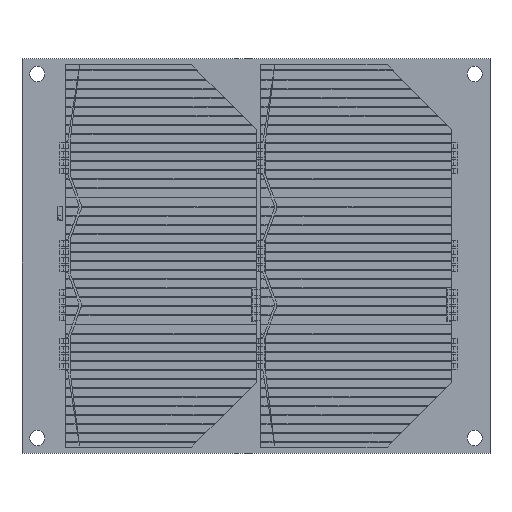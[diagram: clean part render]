
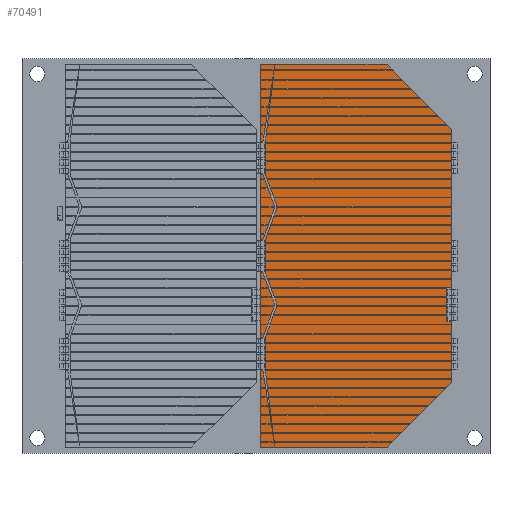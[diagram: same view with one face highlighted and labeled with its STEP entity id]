
A CAD part, top view. The second image highlights one B-rep face of the part: STEP entity #70491.
In plain terms, the highlighted planar face has unit normal (0, 0, 1).
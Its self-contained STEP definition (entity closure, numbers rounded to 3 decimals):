
#70020 = EDGE_CURVE('',#70021,#70023,#70025,.T.);
#70021 = VERTEX_POINT('',#70022);
#70022 = CARTESIAN_POINT('',(-20.,-23.797,0.15));
#70023 = VERTEX_POINT('',#70024);
#70024 = CARTESIAN_POINT('',(-20.,2.703,0.15));
#70025 = SURFACE_CURVE('',#70026,(#70030,#70042),.PCURVE_S1.);
#70026 = LINE('',#70027,#70028);
#70027 = CARTESIAN_POINT('',(-20.,-23.797,0.15));
#70028 = VECTOR('',#70029,1.);
#70029 = DIRECTION('',(0.,1.,0.));
#70030 = PCURVE('',#70031,#70036);
#70031 = PLANE('',#70032);
#70032 = AXIS2_PLACEMENT_3D('',#70033,#70034,#70035);
#70033 = CARTESIAN_POINT('',(-20.,-23.797,0.));
#70034 = DIRECTION('',(-1.,0.,0.));
#70035 = DIRECTION('',(0.,0.,1.));
#70036 = DEFINITIONAL_REPRESENTATION('',(#70037),#70041);
#70037 = LINE('',#70038,#70039);
#70038 = CARTESIAN_POINT('',(0.15,0.));
#70039 = VECTOR('',#70040,1.);
#70040 = DIRECTION('',(0.,1.));
#70041 = ( GEOMETRIC_REPRESENTATION_CONTEXT(2) 
PARAMETRIC_REPRESENTATION_CONTEXT() REPRESENTATION_CONTEXT('2D SPACE',''
  ) );
#70042 = PCURVE('',#70043,#70048);
#70043 = PLANE('',#70044);
#70044 = AXIS2_PLACEMENT_3D('',#70045,#70046,#70047);
#70045 = CARTESIAN_POINT('',(20.,-5.545,0.15));
#70046 = DIRECTION('',(0.,0.,1.));
#70047 = DIRECTION('',(1.,0.,0.));
#70048 = DEFINITIONAL_REPRESENTATION('',(#70049),#70053);
#70049 = LINE('',#70050,#70051);
#70050 = CARTESIAN_POINT('',(-40.,-18.252));
#70051 = VECTOR('',#70052,1.);
#70052 = DIRECTION('',(0.,1.));
#70053 = ( GEOMETRIC_REPRESENTATION_CONTEXT(2) 
PARAMETRIC_REPRESENTATION_CONTEXT() REPRESENTATION_CONTEXT('2D SPACE',''
  ) );
#70071 = PLANE('',#70072);
#70072 = AXIS2_PLACEMENT_3D('',#70073,#70074,#70075);
#70073 = CARTESIAN_POINT('',(-20.,2.703,0.));
#70074 = DIRECTION('',(-0.707,0.707,0.));
#70075 = DIRECTION('',(0.,0.,1.));
#70125 = PLANE('',#70126);
#70126 = AXIS2_PLACEMENT_3D('',#70127,#70128,#70129);
#70127 = CARTESIAN_POINT('',(60.,-23.797,0.));
#70128 = DIRECTION('',(0.,-1.,0.));
#70129 = DIRECTION('',(0.,0.,-1.));
#70140 = EDGE_CURVE('',#70023,#70141,#70143,.T.);
#70141 = VERTEX_POINT('',#70142);
#70142 = CARTESIAN_POINT('',(-6.5,16.203,0.15));
#70143 = SURFACE_CURVE('',#70144,(#70148,#70155),.PCURVE_S1.);
#70144 = LINE('',#70145,#70146);
#70145 = CARTESIAN_POINT('',(-20.,2.703,0.15));
#70146 = VECTOR('',#70147,1.);
#70147 = DIRECTION('',(0.707,0.707,0.));
#70148 = PCURVE('',#70071,#70149);
#70149 = DEFINITIONAL_REPRESENTATION('',(#70150),#70154);
#70150 = LINE('',#70151,#70152);
#70151 = CARTESIAN_POINT('',(0.15,0.));
#70152 = VECTOR('',#70153,1.);
#70153 = DIRECTION('',(0.,1.));
#70154 = ( GEOMETRIC_REPRESENTATION_CONTEXT(2) 
PARAMETRIC_REPRESENTATION_CONTEXT() REPRESENTATION_CONTEXT('2D SPACE',''
  ) );
#70155 = PCURVE('',#70043,#70156);
#70156 = DEFINITIONAL_REPRESENTATION('',(#70157),#70161);
#70157 = LINE('',#70158,#70159);
#70158 = CARTESIAN_POINT('',(-40.,8.248));
#70159 = VECTOR('',#70160,1.);
#70160 = DIRECTION('',(0.707,0.707));
#70161 = ( GEOMETRIC_REPRESENTATION_CONTEXT(2) 
PARAMETRIC_REPRESENTATION_CONTEXT() REPRESENTATION_CONTEXT('2D SPACE',''
  ) );
#70179 = PLANE('',#70180);
#70180 = AXIS2_PLACEMENT_3D('',#70181,#70182,#70183);
#70181 = CARTESIAN_POINT('',(-6.5,16.203,0.));
#70182 = DIRECTION('',(0.,1.,0.));
#70183 = DIRECTION('',(0.,0.,1.));
#70216 = EDGE_CURVE('',#70141,#70217,#70219,.T.);
#70217 = VERTEX_POINT('',#70218);
#70218 = CARTESIAN_POINT('',(46.5,16.203,0.15));
#70219 = SURFACE_CURVE('',#70220,(#70224,#70231),.PCURVE_S1.);
#70220 = LINE('',#70221,#70222);
#70221 = CARTESIAN_POINT('',(-6.5,16.203,0.15));
#70222 = VECTOR('',#70223,1.);
#70223 = DIRECTION('',(1.,0.,0.));
#70224 = PCURVE('',#70179,#70225);
#70225 = DEFINITIONAL_REPRESENTATION('',(#70226),#70230);
#70226 = LINE('',#70227,#70228);
#70227 = CARTESIAN_POINT('',(0.15,0.));
#70228 = VECTOR('',#70229,1.);
#70229 = DIRECTION('',(0.,1.));
#70230 = ( GEOMETRIC_REPRESENTATION_CONTEXT(2) 
PARAMETRIC_REPRESENTATION_CONTEXT() REPRESENTATION_CONTEXT('2D SPACE',''
  ) );
#70231 = PCURVE('',#70043,#70232);
#70232 = DEFINITIONAL_REPRESENTATION('',(#70233),#70237);
#70233 = LINE('',#70234,#70235);
#70234 = CARTESIAN_POINT('',(-26.5,21.748));
#70235 = VECTOR('',#70236,1.);
#70236 = DIRECTION('',(1.,0.));
#70237 = ( GEOMETRIC_REPRESENTATION_CONTEXT(2) 
PARAMETRIC_REPRESENTATION_CONTEXT() REPRESENTATION_CONTEXT('2D SPACE',''
  ) );
#70255 = PLANE('',#70256);
#70256 = AXIS2_PLACEMENT_3D('',#70257,#70258,#70259);
#70257 = CARTESIAN_POINT('',(46.5,16.203,0.));
#70258 = DIRECTION('',(0.707,0.707,0.));
#70259 = DIRECTION('',(0.,0.,-1.));
#70292 = EDGE_CURVE('',#70217,#70293,#70295,.T.);
#70293 = VERTEX_POINT('',#70294);
#70294 = CARTESIAN_POINT('',(60.,2.703,0.15));
#70295 = SURFACE_CURVE('',#70296,(#70300,#70307),.PCURVE_S1.);
#70296 = LINE('',#70297,#70298);
#70297 = CARTESIAN_POINT('',(46.5,16.203,0.15));
#70298 = VECTOR('',#70299,1.);
#70299 = DIRECTION('',(0.707,-0.707,0.));
#70300 = PCURVE('',#70255,#70301);
#70301 = DEFINITIONAL_REPRESENTATION('',(#70302),#70306);
#70302 = LINE('',#70303,#70304);
#70303 = CARTESIAN_POINT('',(-0.15,0.));
#70304 = VECTOR('',#70305,1.);
#70305 = DIRECTION('',(0.,-1.));
#70306 = ( GEOMETRIC_REPRESENTATION_CONTEXT(2) 
PARAMETRIC_REPRESENTATION_CONTEXT() REPRESENTATION_CONTEXT('2D SPACE',''
  ) );
#70307 = PCURVE('',#70043,#70308);
#70308 = DEFINITIONAL_REPRESENTATION('',(#70309),#70313);
#70309 = LINE('',#70310,#70311);
#70310 = CARTESIAN_POINT('',(26.5,21.748));
#70311 = VECTOR('',#70312,1.);
#70312 = DIRECTION('',(0.707,-0.707));
#70313 = ( GEOMETRIC_REPRESENTATION_CONTEXT(2) 
PARAMETRIC_REPRESENTATION_CONTEXT() REPRESENTATION_CONTEXT('2D SPACE',''
  ) );
#70331 = PLANE('',#70332);
#70332 = AXIS2_PLACEMENT_3D('',#70333,#70334,#70335);
#70333 = CARTESIAN_POINT('',(60.,2.703,0.));
#70334 = DIRECTION('',(1.,0.,0.));
#70335 = DIRECTION('',(0.,0.,-1.));
#70368 = EDGE_CURVE('',#70293,#70369,#70371,.T.);
#70369 = VERTEX_POINT('',#70370);
#70370 = CARTESIAN_POINT('',(60.,-23.797,0.15));
#70371 = SURFACE_CURVE('',#70372,(#70376,#70383),.PCURVE_S1.);
#70372 = LINE('',#70373,#70374);
#70373 = CARTESIAN_POINT('',(60.,2.703,0.15));
#70374 = VECTOR('',#70375,1.);
#70375 = DIRECTION('',(0.,-1.,0.));
#70376 = PCURVE('',#70331,#70377);
#70377 = DEFINITIONAL_REPRESENTATION('',(#70378),#70382);
#70378 = LINE('',#70379,#70380);
#70379 = CARTESIAN_POINT('',(-0.15,0.));
#70380 = VECTOR('',#70381,1.);
#70381 = DIRECTION('',(0.,-1.));
#70382 = ( GEOMETRIC_REPRESENTATION_CONTEXT(2) 
PARAMETRIC_REPRESENTATION_CONTEXT() REPRESENTATION_CONTEXT('2D SPACE',''
  ) );
#70383 = PCURVE('',#70043,#70384);
#70384 = DEFINITIONAL_REPRESENTATION('',(#70385),#70389);
#70385 = LINE('',#70386,#70387);
#70386 = CARTESIAN_POINT('',(40.,8.248));
#70387 = VECTOR('',#70388,1.);
#70388 = DIRECTION('',(0.,-1.));
#70389 = ( GEOMETRIC_REPRESENTATION_CONTEXT(2) 
PARAMETRIC_REPRESENTATION_CONTEXT() REPRESENTATION_CONTEXT('2D SPACE',''
  ) );
#70439 = EDGE_CURVE('',#70369,#70021,#70440,.T.);
#70440 = SURFACE_CURVE('',#70441,(#70445,#70452),.PCURVE_S1.);
#70441 = LINE('',#70442,#70443);
#70442 = CARTESIAN_POINT('',(60.,-23.797,0.15));
#70443 = VECTOR('',#70444,1.);
#70444 = DIRECTION('',(-1.,0.,0.));
#70445 = PCURVE('',#70125,#70446);
#70446 = DEFINITIONAL_REPRESENTATION('',(#70447),#70451);
#70447 = LINE('',#70448,#70449);
#70448 = CARTESIAN_POINT('',(-0.15,0.));
#70449 = VECTOR('',#70450,1.);
#70450 = DIRECTION('',(0.,-1.));
#70451 = ( GEOMETRIC_REPRESENTATION_CONTEXT(2) 
PARAMETRIC_REPRESENTATION_CONTEXT() REPRESENTATION_CONTEXT('2D SPACE',''
  ) );
#70452 = PCURVE('',#70043,#70453);
#70453 = DEFINITIONAL_REPRESENTATION('',(#70454),#70458);
#70454 = LINE('',#70455,#70456);
#70455 = CARTESIAN_POINT('',(40.,-18.252));
#70456 = VECTOR('',#70457,1.);
#70457 = DIRECTION('',(-1.,0.));
#70458 = ( GEOMETRIC_REPRESENTATION_CONTEXT(2) 
PARAMETRIC_REPRESENTATION_CONTEXT() REPRESENTATION_CONTEXT('2D SPACE',''
  ) );
#70491 = ADVANCED_FACE('',(#70492),#70043,.T.);
#70492 = FACE_BOUND('',#70493,.T.);
#70493 = EDGE_LOOP('',(#70494,#70495,#70496,#70497,#70498,#70499));
#70494 = ORIENTED_EDGE('',*,*,#70020,.F.);
#70495 = ORIENTED_EDGE('',*,*,#70439,.F.);
#70496 = ORIENTED_EDGE('',*,*,#70368,.F.);
#70497 = ORIENTED_EDGE('',*,*,#70292,.F.);
#70498 = ORIENTED_EDGE('',*,*,#70216,.F.);
#70499 = ORIENTED_EDGE('',*,*,#70140,.F.);
